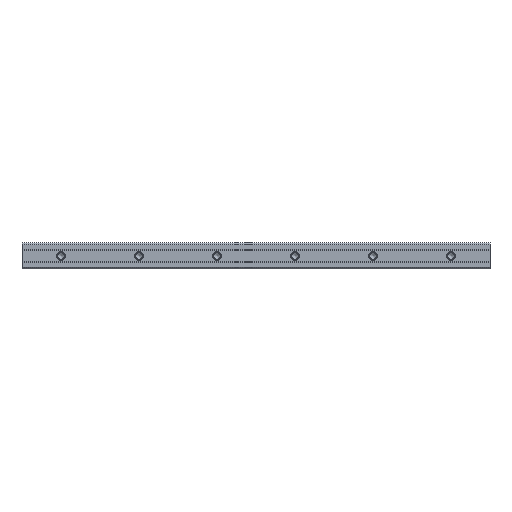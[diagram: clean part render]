
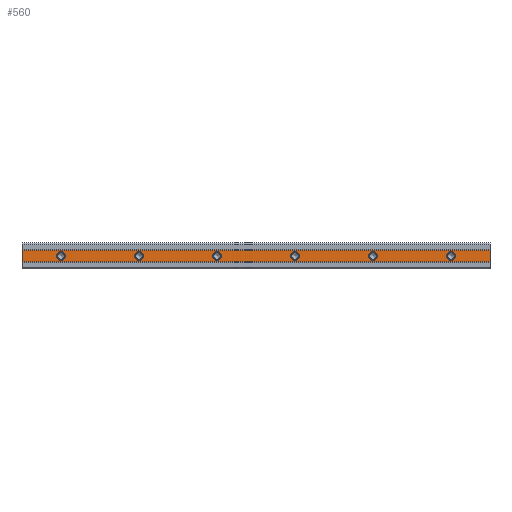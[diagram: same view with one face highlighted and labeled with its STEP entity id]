
A CAD part, front view. The second image highlights one B-rep face of the part: STEP entity #560.
In plain terms, the highlighted planar face has unit normal (0, -1, 0).
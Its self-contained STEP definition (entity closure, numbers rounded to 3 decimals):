
#60 = DIRECTION ( 'NONE',  ( -1., 0., 0. ) ) ;
#87 = DIRECTION ( 'NONE',  ( 0., 1., 0. ) ) ;
#117 = EDGE_LOOP ( 'NONE', ( #286, #1836 ) ) ;
#135 = DIRECTION ( 'NONE',  ( 0., 0., 1. ) ) ;
#142 = CARTESIAN_POINT ( 'NONE',  ( 90., 0.5, -3.5 ) ) ;
#150 = DIRECTION ( 'NONE',  ( 0., 0., 1. ) ) ;
#151 = CARTESIAN_POINT ( 'NONE',  ( 30., 0.5, 3.5 ) ) ;
#157 = VERTEX_POINT ( 'NONE', #1016 ) ;
#163 = DIRECTION ( 'NONE',  ( 0., 0., 1. ) ) ;
#170 = EDGE_CURVE ( 'NONE', #969, #1698, #1380, .T. ) ;
#173 = DIRECTION ( 'NONE',  ( 0., 1., 0. ) ) ;
#286 = ORIENTED_EDGE ( 'NONE', *, *, #2193, .T. ) ;
#362 = ORIENTED_EDGE ( 'NONE', *, *, #1562, .T. ) ;
#371 = CARTESIAN_POINT ( 'NONE',  ( 210., 0.5, 0. ) ) ;
#372 = FACE_OUTER_BOUND ( 'NONE', #843, .T. ) ;
#374 = CARTESIAN_POINT ( 'NONE',  ( 0., 0.5, 4.25 ) ) ;
#383 = AXIS2_PLACEMENT_3D ( 'NONE', #1830, #1059, #163 ) ;
#403 = DIRECTION ( 'NONE',  ( 0., 0., 1. ) ) ;
#412 = CARTESIAN_POINT ( 'NONE',  ( 270., 0.5, -3.5 ) ) ;
#416 = EDGE_LOOP ( 'NONE', ( #952, #2405 ) ) ;
#436 = CARTESIAN_POINT ( 'NONE',  ( 360., 0.5, 4.25 ) ) ;
#455 = LINE ( 'NONE', #758, #1974 ) ;
#458 = CIRCLE ( 'NONE', #1196, 3.5 ) ;
#496 = AXIS2_PLACEMENT_3D ( 'NONE', #994, #2361, #135 ) ;
#508 = DIRECTION ( 'NONE',  ( 0., 1., 0. ) ) ;
#514 = VERTEX_POINT ( 'NONE', #2229 ) ;
#519 = CARTESIAN_POINT ( 'NONE',  ( 330., 0.5, 3.5 ) ) ;
#538 = CIRCLE ( 'NONE', #496, 3.5 ) ;
#541 = AXIS2_PLACEMENT_3D ( 'NONE', #1151, #979, #1528 ) ;
#556 = DIRECTION ( 'NONE',  ( 0., 0., 1. ) ) ;
#560 = ADVANCED_FACE ( 'NONE', ( #962, #765, #372, #736, #578, #915, #2034 ), #1109, .F. ) ;
#567 = EDGE_CURVE ( 'NONE', #2329, #157, #1695, .T. ) ;
#578 = FACE_BOUND ( 'NONE', #2297, .T. ) ;
#600 = ORIENTED_EDGE ( 'NONE', *, *, #170, .F. ) ;
#630 = CARTESIAN_POINT ( 'NONE',  ( 90., 0.5, 3.5 ) ) ;
#718 = EDGE_CURVE ( 'NONE', #759, #826, #538, .T. ) ;
#736 = FACE_BOUND ( 'NONE', #740, .T. ) ;
#738 = VERTEX_POINT ( 'NONE', #519 ) ;
#740 = EDGE_LOOP ( 'NONE', ( #362, #868 ) ) ;
#752 = CARTESIAN_POINT ( 'NONE',  ( 270., 0.5, 0. ) ) ;
#758 = CARTESIAN_POINT ( 'NONE',  ( 360., 0.5, 4.25 ) ) ;
#759 = VERTEX_POINT ( 'NONE', #892 ) ;
#763 = AXIS2_PLACEMENT_3D ( 'NONE', #1655, #2396, #2219 ) ;
#765 = FACE_BOUND ( 'NONE', #117, .T. ) ;
#772 = EDGE_LOOP ( 'NONE', ( #1366, #939 ) ) ;
#787 = EDGE_CURVE ( 'NONE', #1769, #1113, #888, .T. ) ;
#826 = VERTEX_POINT ( 'NONE', #1476 ) ;
#843 = EDGE_LOOP ( 'NONE', ( #2150, #600, #1584, #855 ) ) ;
#855 = ORIENTED_EDGE ( 'NONE', *, *, #1311, .T. ) ;
#868 = ORIENTED_EDGE ( 'NONE', *, *, #718, .T. ) ;
#888 = CIRCLE ( 'NONE', #1238, 3.5 ) ;
#891 = AXIS2_PLACEMENT_3D ( 'NONE', #1783, #1252, #1264 ) ;
#892 = CARTESIAN_POINT ( 'NONE',  ( 150., 0.5, 3.5 ) ) ;
#908 = DIRECTION ( 'NONE',  ( 0., 0., -1. ) ) ;
#915 = FACE_BOUND ( 'NONE', #772, .T. ) ;
#928 = EDGE_CURVE ( 'NONE', #2170, #1244, #1117, .T. ) ;
#935 = CARTESIAN_POINT ( 'NONE',  ( 360., 0.5, -4.25 ) ) ;
#937 = EDGE_CURVE ( 'NONE', #738, #2191, #1776, .T. ) ;
#939 = ORIENTED_EDGE ( 'NONE', *, *, #2315, .T. ) ;
#944 = VERTEX_POINT ( 'NONE', #412 ) ;
#952 = ORIENTED_EDGE ( 'NONE', *, *, #787, .T. ) ;
#961 = VECTOR ( 'NONE', #1173, 1000. ) ;
#962 = FACE_BOUND ( 'NONE', #416, .T. ) ;
#969 = VERTEX_POINT ( 'NONE', #935 ) ;
#979 = DIRECTION ( 'NONE',  ( 0., 1., 0. ) ) ;
#992 = VECTOR ( 'NONE', #2138, 1000. ) ;
#994 = CARTESIAN_POINT ( 'NONE',  ( 150., 0.5, 0. ) ) ;
#1008 = CARTESIAN_POINT ( 'NONE',  ( 270., 0.5, 0. ) ) ;
#1016 = CARTESIAN_POINT ( 'NONE',  ( 210., 0.5, 3.5 ) ) ;
#1031 = CARTESIAN_POINT ( 'NONE',  ( 0., 0.5, -4.25 ) ) ;
#1036 = AXIS2_PLACEMENT_3D ( 'NONE', #1008, #508, #1232 ) ;
#1057 = EDGE_CURVE ( 'NONE', #1972, #969, #1399, .T. ) ;
#1059 = DIRECTION ( 'NONE',  ( 0., 1., 0. ) ) ;
#1079 = CIRCLE ( 'NONE', #1036, 3.5 ) ;
#1080 = AXIS2_PLACEMENT_3D ( 'NONE', #1479, #2058, #556 ) ;
#1109 = PLANE ( 'NONE',  #1080 ) ;
#1113 = VERTEX_POINT ( 'NONE', #630 ) ;
#1117 = CIRCLE ( 'NONE', #1733, 3.5 ) ;
#1151 = CARTESIAN_POINT ( 'NONE',  ( 330., 0.5, 0. ) ) ;
#1166 = ORIENTED_EDGE ( 'NONE', *, *, #937, .T. ) ;
#1173 = DIRECTION ( 'NONE',  ( 0., 0., -1. ) ) ;
#1180 = ORIENTED_EDGE ( 'NONE', *, *, #2210, .T. ) ;
#1196 = AXIS2_PLACEMENT_3D ( 'NONE', #752, #1892, #2261 ) ;
#1232 = DIRECTION ( 'NONE',  ( 0., 0., 1. ) ) ;
#1236 = VECTOR ( 'NONE', #908, 1000. ) ;
#1238 = AXIS2_PLACEMENT_3D ( 'NONE', #2205, #1812, #150 ) ;
#1244 = VERTEX_POINT ( 'NONE', #1800 ) ;
#1252 = DIRECTION ( 'NONE',  ( 0., 1., 0. ) ) ;
#1264 = DIRECTION ( 'NONE',  ( 0., 0., 1. ) ) ;
#1292 = CARTESIAN_POINT ( 'NONE',  ( 360., 0.5, 4.25 ) ) ;
#1311 = EDGE_CURVE ( 'NONE', #1972, #2158, #455, .T. ) ;
#1345 = AXIS2_PLACEMENT_3D ( 'NONE', #1689, #1497, #1849 ) ;
#1366 = ORIENTED_EDGE ( 'NONE', *, *, #2055, .T. ) ;
#1380 = LINE ( 'NONE', #1710, #992 ) ;
#1399 = LINE ( 'NONE', #436, #961 ) ;
#1430 = CIRCLE ( 'NONE', #383, 3.5 ) ;
#1460 = EDGE_CURVE ( 'NONE', #2191, #738, #1665, .T. ) ;
#1462 = CARTESIAN_POINT ( 'NONE',  ( 330., 0.5, -3.5 ) ) ;
#1476 = CARTESIAN_POINT ( 'NONE',  ( 150., 0.5, -3.5 ) ) ;
#1479 = CARTESIAN_POINT ( 'NONE',  ( 360., 0.5, 4.25 ) ) ;
#1497 = DIRECTION ( 'NONE',  ( 0., 1., 0. ) ) ;
#1528 = DIRECTION ( 'NONE',  ( 0., 0., 1. ) ) ;
#1562 = EDGE_CURVE ( 'NONE', #826, #759, #2174, .T. ) ;
#1584 = ORIENTED_EDGE ( 'NONE', *, *, #1057, .F. ) ;
#1601 = CARTESIAN_POINT ( 'NONE',  ( 330., 0.5, 0. ) ) ;
#1616 = ORIENTED_EDGE ( 'NONE', *, *, #1460, .T. ) ;
#1655 = CARTESIAN_POINT ( 'NONE',  ( 90., 0.5, 0. ) ) ;
#1665 = CIRCLE ( 'NONE', #2247, 3.5 ) ;
#1689 = CARTESIAN_POINT ( 'NONE',  ( 210., 0.5, 0. ) ) ;
#1695 = CIRCLE ( 'NONE', #1345, 3.5 ) ;
#1697 = CIRCLE ( 'NONE', #763, 3.5 ) ;
#1698 = VERTEX_POINT ( 'NONE', #1031 ) ;
#1710 = CARTESIAN_POINT ( 'NONE',  ( 360., 0.5, -4.25 ) ) ;
#1733 = AXIS2_PLACEMENT_3D ( 'NONE', #2269, #1901, #403 ) ;
#1769 = VERTEX_POINT ( 'NONE', #142 ) ;
#1776 = CIRCLE ( 'NONE', #541, 3.5 ) ;
#1783 = CARTESIAN_POINT ( 'NONE',  ( 150., 0.5, 0. ) ) ;
#1800 = CARTESIAN_POINT ( 'NONE',  ( 30., 0.5, -3.5 ) ) ;
#1803 = DIRECTION ( 'NONE',  ( 0., 0., 1. ) ) ;
#1812 = DIRECTION ( 'NONE',  ( 0., 1., 0. ) ) ;
#1818 = AXIS2_PLACEMENT_3D ( 'NONE', #371, #173, #1803 ) ;
#1823 = CIRCLE ( 'NONE', #1818, 3.5 ) ;
#1830 = CARTESIAN_POINT ( 'NONE',  ( 30., 0.5, 0. ) ) ;
#1836 = ORIENTED_EDGE ( 'NONE', *, *, #928, .T. ) ;
#1849 = DIRECTION ( 'NONE',  ( 0., 0., 1. ) ) ;
#1869 = CARTESIAN_POINT ( 'NONE',  ( 210., 0.5, -3.5 ) ) ;
#1892 = DIRECTION ( 'NONE',  ( 0., 1., 0. ) ) ;
#1898 = EDGE_LOOP ( 'NONE', ( #1616, #1166 ) ) ;
#1900 = EDGE_CURVE ( 'NONE', #2158, #1698, #2037, .T. ) ;
#1901 = DIRECTION ( 'NONE',  ( 0., 1., 0. ) ) ;
#1972 = VERTEX_POINT ( 'NONE', #1292 ) ;
#1974 = VECTOR ( 'NONE', #60, 1000. ) ;
#1989 = ORIENTED_EDGE ( 'NONE', *, *, #567, .T. ) ;
#2034 = FACE_BOUND ( 'NONE', #1898, .T. ) ;
#2037 = LINE ( 'NONE', #374, #1236 ) ;
#2055 = EDGE_CURVE ( 'NONE', #944, #514, #1079, .T. ) ;
#2058 = DIRECTION ( 'NONE',  ( 0., 1., 0. ) ) ;
#2138 = DIRECTION ( 'NONE',  ( -1., 0., 0. ) ) ;
#2150 = ORIENTED_EDGE ( 'NONE', *, *, #1900, .T. ) ;
#2158 = VERTEX_POINT ( 'NONE', #2228 ) ;
#2170 = VERTEX_POINT ( 'NONE', #151 ) ;
#2174 = CIRCLE ( 'NONE', #891, 3.5 ) ;
#2191 = VERTEX_POINT ( 'NONE', #1462 ) ;
#2193 = EDGE_CURVE ( 'NONE', #1244, #2170, #1430, .T. ) ;
#2205 = CARTESIAN_POINT ( 'NONE',  ( 90., 0.5, 0. ) ) ;
#2210 = EDGE_CURVE ( 'NONE', #157, #2329, #1823, .T. ) ;
#2219 = DIRECTION ( 'NONE',  ( 0., 0., 1. ) ) ;
#2228 = CARTESIAN_POINT ( 'NONE',  ( 0., 0.5, 4.25 ) ) ;
#2229 = CARTESIAN_POINT ( 'NONE',  ( 270., 0.5, 3.5 ) ) ;
#2247 = AXIS2_PLACEMENT_3D ( 'NONE', #1601, #87, #2339 ) ;
#2248 = EDGE_CURVE ( 'NONE', #1113, #1769, #1697, .T. ) ;
#2261 = DIRECTION ( 'NONE',  ( 0., 0., 1. ) ) ;
#2269 = CARTESIAN_POINT ( 'NONE',  ( 30., 0.5, 0. ) ) ;
#2297 = EDGE_LOOP ( 'NONE', ( #1989, #1180 ) ) ;
#2315 = EDGE_CURVE ( 'NONE', #514, #944, #458, .T. ) ;
#2329 = VERTEX_POINT ( 'NONE', #1869 ) ;
#2339 = DIRECTION ( 'NONE',  ( 0., 0., 1. ) ) ;
#2361 = DIRECTION ( 'NONE',  ( 0., 1., 0. ) ) ;
#2396 = DIRECTION ( 'NONE',  ( 0., 1., 0. ) ) ;
#2405 = ORIENTED_EDGE ( 'NONE', *, *, #2248, .T. ) ;
